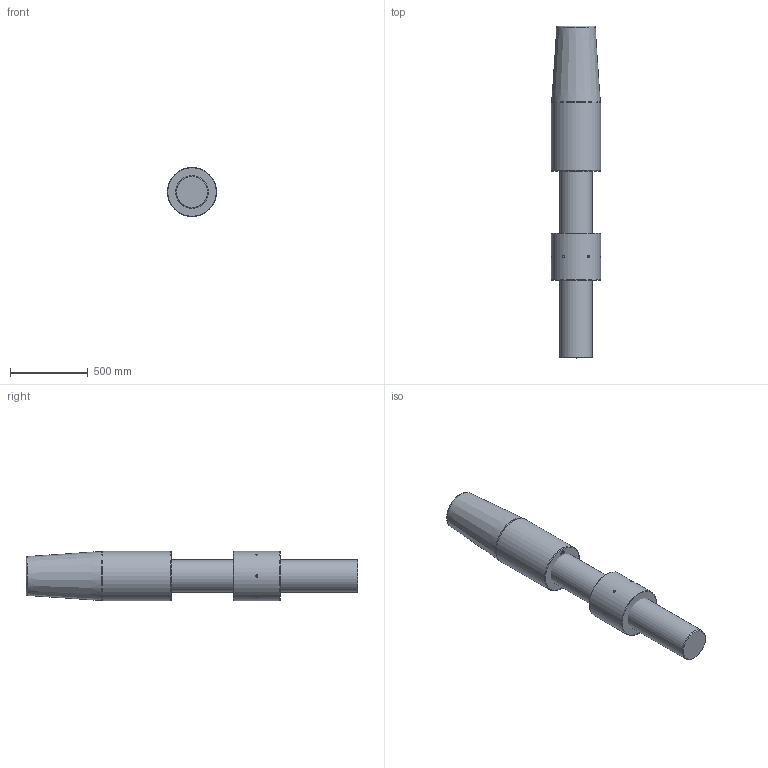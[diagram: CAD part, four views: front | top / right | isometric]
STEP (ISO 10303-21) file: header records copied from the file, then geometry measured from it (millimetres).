
FILE_DESCRIPTION(/* description */ (''),/* implementation_level */ '2;1');
FILE_NAME(/* name */ 'C:\Users\ranca\Desktop\CYM\ARRANGEMENT\CYM108 52 061 0.stp',/* time_stamp */ '2021-04-23T20:39:03+02:00',/* author */ ('ranca'),/* organization */ (''),/* preprocessor_version */ 'ST-DEVELOPER v16.13',/* originating_system */ 'Autodesk Inventor 2018',/* authorisation */ '');
FILE_SCHEMA (('AUTOMOTIVE_DESIGN { 1 0 10303 214 3 1 1 }'));
Length unit declared in the file: millimetre
Products named in the file (4): CYM108-52-061-0; CYM012-52-061-0_ROD; CYC108 52 065 0_CYL SOK_RH; CYM108-41-051-0
Assembly tree (3 placements, depth 2):
  CYM108-52-061-0
    CYM012-52-061-0_ROD
    CYC108 52 065 0_CYL SOK_RH
    CYM108-41-051-0
Bounding box: 315 x 2131 x 315 mm (x, y, z)
Volume: 140448725.6 mm3; surface area: 2503367.5 mm2
Topology: 3 solids, 3 shells, 520 faces, 1390 edges, 924 vertices
Faces by surface type: bspline 272, plane 226, cone 11, cylinder 9, torus 2
Full cylindrical faces by diameter (mm): 15 x6, 210 x1, 315 x2
Entity records: 17677 total; most frequent: CARTESIAN_POINT 6567, ORIENTED_EDGE 2722, EDGE_CURVE 1361, DIRECTION 1338, VERTEX_POINT 918, LINE 784, VECTOR 784, EDGE_LOOP 591
